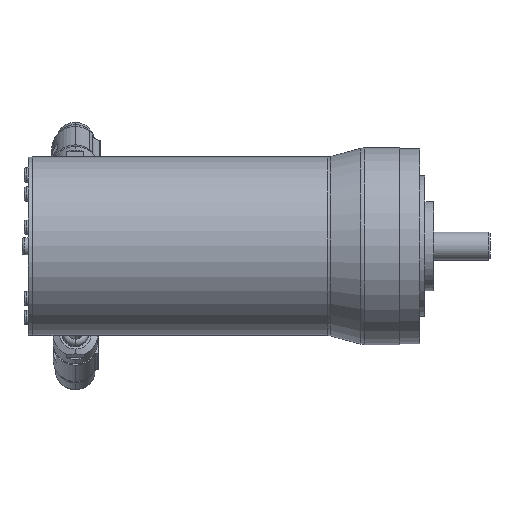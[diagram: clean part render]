
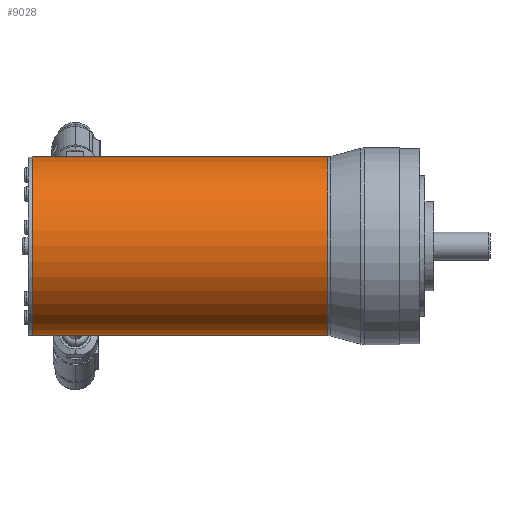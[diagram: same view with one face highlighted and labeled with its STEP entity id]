
A CAD part, front view. The second image highlights one B-rep face of the part: STEP entity #9028.
In plain terms, the highlighted cylindrical face has radius 50.864 mm (diameter 101.727 mm), a partial arc.
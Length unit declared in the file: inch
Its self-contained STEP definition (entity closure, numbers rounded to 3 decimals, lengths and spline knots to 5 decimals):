
#460 = ORIENTED_EDGE ( 'NONE', *, *, #789, .T. ) ;
#506 = ORIENTED_EDGE ( 'NONE', *, *, #3507, .F. ) ;
#789 = EDGE_CURVE ( 'NONE', #8727, #6443, #13015, .T. ) ;
#1992 = FACE_OUTER_BOUND ( 'NONE', #2783, .T. ) ;
#2000 = CARTESIAN_POINT ( 'NONE',  ( -8.783, 0., 2.0025 ) ) ;
#2588 = CARTESIAN_POINT ( 'NONE',  ( 0.44179, 0., 0. ) ) ;
#2783 = EDGE_LOOP ( 'NONE', ( #15700, #16025, #460, #506 ) ) ;
#2804 = EDGE_CURVE ( 'NONE', #15950, #14006, #3198, .T. ) ;
#2896 = CARTESIAN_POINT ( 'NONE',  ( -2.17436, 0., 0. ) ) ;
#3133 = DIRECTION ( 'NONE',  ( 1., 0., 0. ) ) ;
#3198 = CIRCLE ( 'NONE', #5589, 2.0025 ) ;
#3507 = EDGE_CURVE ( 'NONE', #15950, #6443, #7567, .T. ) ;
#3594 = CARTESIAN_POINT ( 'NONE',  ( -2.17436, 0., 2.0025 ) ) ;
#4292 = DIRECTION ( 'NONE',  ( 0., 0., -1. ) ) ;
#4951 = CARTESIAN_POINT ( 'NONE',  ( -8.783, 0., -2.0025 ) ) ;
#5589 = AXIS2_PLACEMENT_3D ( 'NONE', #11568, #3133, #13001 ) ;
#6109 = AXIS2_PLACEMENT_3D ( 'NONE', #2588, #16668, #18070 ) ;
#6131 = DIRECTION ( 'NONE',  ( 1., 0., 0. ) ) ;
#6443 = VERTEX_POINT ( 'NONE', #11053 ) ;
#7380 = EDGE_CURVE ( 'NONE', #14006, #8727, #14841, .T. ) ;
#7567 = LINE ( 'NONE', #17447, #14630 ) ;
#8727 = VERTEX_POINT ( 'NONE', #3594 ) ;
#9028 = ADVANCED_FACE ( 'NONE', ( #1992 ), #12789, .T. ) ;
#9110 = VECTOR ( 'NONE', #18102, 39.37008 ) ;
#11053 = CARTESIAN_POINT ( 'NONE',  ( -2.17436, 0., -2.0025 ) ) ;
#11568 = CARTESIAN_POINT ( 'NONE',  ( -8.783, 0., 0. ) ) ;
#12739 = DIRECTION ( 'NONE',  ( -1., 0., 0. ) ) ;
#12789 = CYLINDRICAL_SURFACE ( 'NONE', #6109, 2.0025 ) ;
#13001 = DIRECTION ( 'NONE',  ( 0., 0., -1. ) ) ;
#13015 = CIRCLE ( 'NONE', #13094, 2.0025 ) ;
#13094 = AXIS2_PLACEMENT_3D ( 'NONE', #2896, #12739, #4292 ) ;
#14006 = VERTEX_POINT ( 'NONE', #2000 ) ;
#14630 = VECTOR ( 'NONE', #6131, 39.37008 ) ;
#14841 = LINE ( 'NONE', #15297, #9110 ) ;
#15297 = CARTESIAN_POINT ( 'NONE',  ( 0.44179, 0., 2.0025 ) ) ;
#15700 = ORIENTED_EDGE ( 'NONE', *, *, #2804, .T. ) ;
#15950 = VERTEX_POINT ( 'NONE', #4951 ) ;
#16025 = ORIENTED_EDGE ( 'NONE', *, *, #7380, .T. ) ;
#16668 = DIRECTION ( 'NONE',  ( 1., 0., 0. ) ) ;
#17447 = CARTESIAN_POINT ( 'NONE',  ( 0.44179, 0., -2.0025 ) ) ;
#18070 = DIRECTION ( 'NONE',  ( 0., 0., -1. ) ) ;
#18102 = DIRECTION ( 'NONE',  ( 1., 0., 0. ) ) ;
